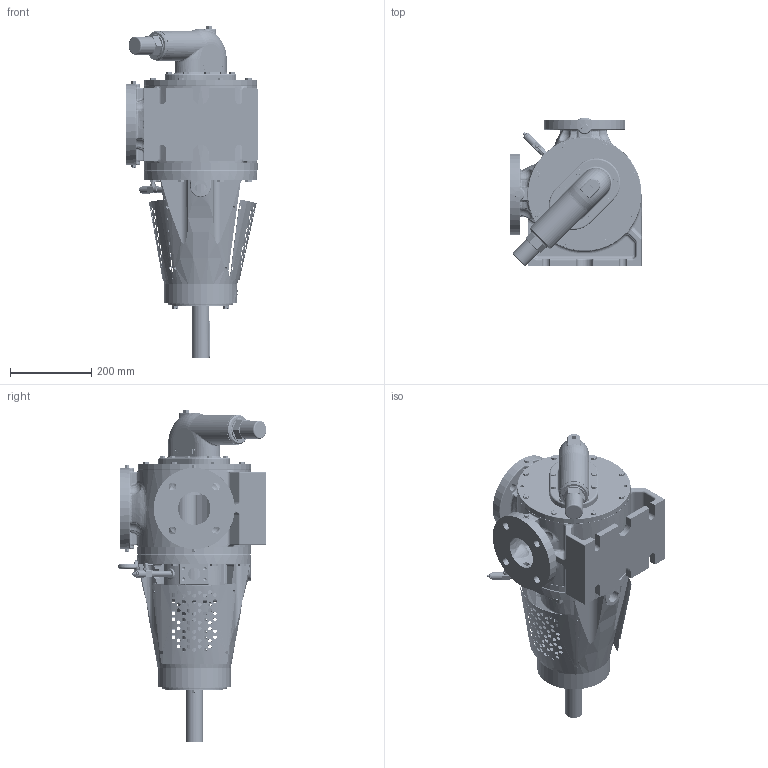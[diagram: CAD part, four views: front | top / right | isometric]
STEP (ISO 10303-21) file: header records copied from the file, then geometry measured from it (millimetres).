
FILE_DESCRIPTION((''),'2;1');
FILE_NAME('HD1263_ASM','2023-09-07T',('blli'),(''),'PRO/ENGINEER BY PARAMETRIC TECHNOLOGY CORPORATION, 2017170','PRO/ENGINEER BY PARAMETRIC TECHNOLOGY CORPORATION, 2017170','');
FILE_SCHEMA(('CONFIG_CONTROL_DESIGN'));
Length unit declared in the file: millimetre
Products named in the file (35): 11263-001AB342; 11263-002BA342; 1126-021AA015; 1126-003ME342; 0010-140AB342; 1151-020AA050; 706804; 0012-110YA215; 700306; 703035; 0006-060DG342; 760279; 3008-075KA080; 0012-110YB215; 0068-140GC104_AF0; 0068-140GC104_AF1; 1101-051AB220; 1058-042AA215; 704059; 1058-044AA030; 1081-043AA070_AF0; 0045-042AA050; 0049-072AA050; 1023-046BA081; 0037-046AA020; 6696-BYPASS-HD81-101_ASM; 700305; 3110-001CA225; 701104; 700186; 705843; 3161-000BB767; 701692; 704288; HD1263_ASM
Assembly tree (65 placements, depth 3):
  HD1263_ASM
    11263-001AB342
    11263-002BA342
    1126-021AA015
    1126-003ME342
    0010-140AB342
    1151-020AA050
    706804
    0012-110YA215
    700306  x4
    703035  x8
    0006-060DG342
    760279  x2
    3008-075KA080  x2
    0012-110YB215
    0068-140GC104_AF0
    0068-140GC104_AF1
    6696-BYPASS-HD81-101_ASM
      1101-051AB220
      1058-042AA215
      704059
      1058-044AA030
      1081-043AA070_AF0
      0045-042AA050
      0049-072AA050
      760279
      1023-046BA081
      0037-046AA020
    700305  x16
    3110-001CA225  x4
    701104
    700186
    705843
    3161-000BB767
    701692
    704288
Bounding box: 322.6 x 366.73 x 817.5 mm (x, y, z)
Volume: 16643257.2 mm3; surface area: 2437029.3 mm2
Topology: 73 solids, 154 shells, 5026 faces, 12713 edges, 7880 vertices
Faces by surface type: plane 1667, bspline 1214, cylinder 1043, cone 569, torus 264, extrusion 162, sphere 103, revolution 4
Entity records: 243075 total; most frequent: CARTESIAN_POINT 142875, ORIENTED_EDGE 22432, DIRECTION 17449, EDGE_CURVE 11406, VERTEX_POINT 7180, AXIS2_PLACEMENT_3D 6630, EDGE_LOOP 5095, FACE_OUTER_BOUND 4478
